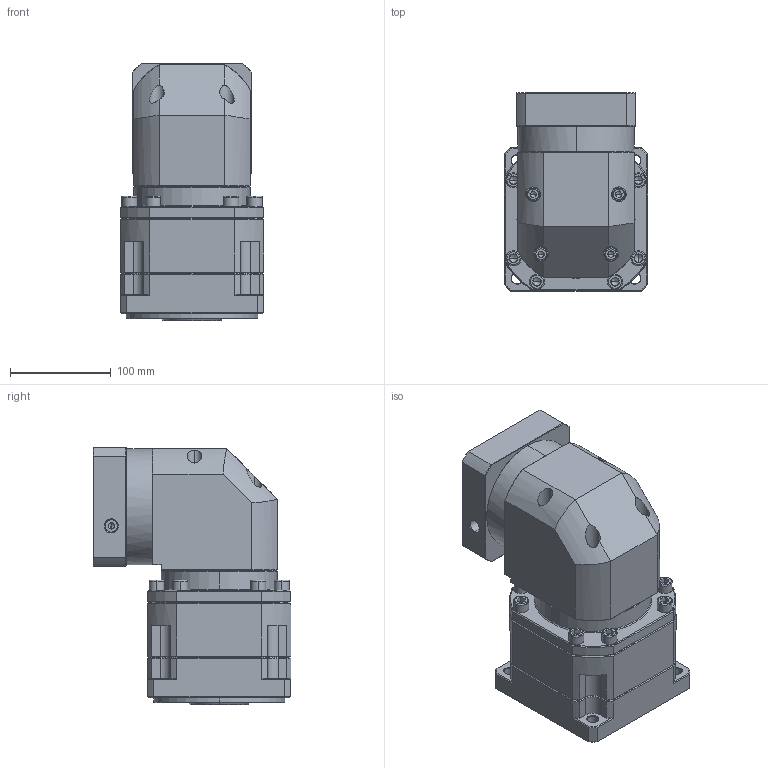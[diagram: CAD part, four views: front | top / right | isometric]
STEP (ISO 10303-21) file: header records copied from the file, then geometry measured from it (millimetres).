
FILE_DESCRIPTION (( 'STEP AP214' ), '1' );
FILE_NAME ('ZBR142A-K35-L2-P2-24-95-115-M6.step', '2023-09-02T08:13:36', ( '' ), ( '' ), 'SwSTEP 2.0', 'SolidWorks 2016', '' );
FILE_SCHEMA (( 'AUTOMOTIVE_DESIGN' ));
Length unit declared in the file: millimetre
Products named in the file (1): ZBR142A-K35-L2-P2-24-95-115-M6
Bounding box: 142 x 195.9 x 255.2 mm (x, y, z)
Volume: 4135209.1 mm3; surface area: 302801.9 mm2
Topology: 6 solids, 6 shells, 2517 faces, 6538 edges, 4145 vertices
Faces by surface type: plane 1224, cylinder 450, bspline 407, cone 392, torus 44
Entity records: 130667 total; most frequent: CARTESIAN_POINT 44557, ORIENTED_EDGE 12972, DIRECTION 10662, EDGE_CURVE 6486, VECTOR 4194, LINE 4194, VERTEX_POINT 4145, AXIS2_PLACEMENT_3D 3234
